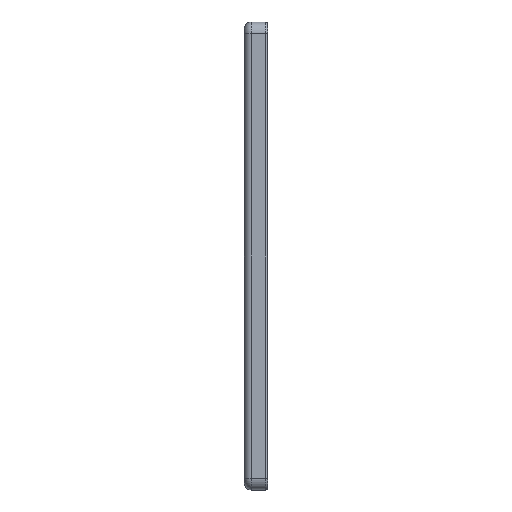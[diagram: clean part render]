
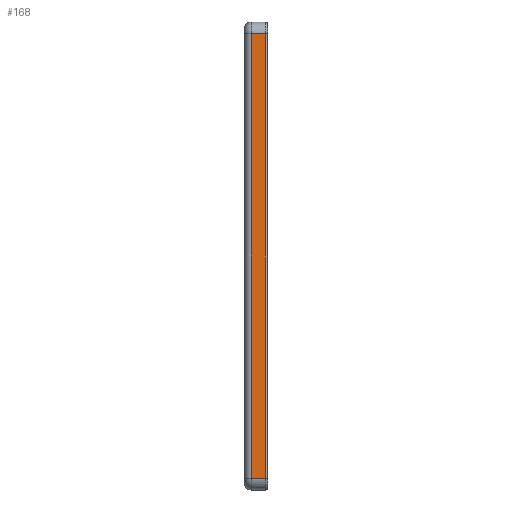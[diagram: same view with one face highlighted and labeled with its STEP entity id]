
A CAD part, left-side view. The second image highlights one B-rep face of the part: STEP entity #168.
In plain terms, the highlighted planar face has unit normal (-1, 0, 0).
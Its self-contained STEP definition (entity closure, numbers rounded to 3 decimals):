
#13 = EDGE_LOOP ( 'NONE', ( #1362, #1363, #1364, #1365 ) ) ;
#168 = ADVANCED_FACE ( 'NONE', ( #2204 ), #2179, .F. ) ;
#249 = EDGE_CURVE ( 'NONE', #937, #961, #2437, .T. ) ;
#269 = EDGE_CURVE ( 'NONE', #957, #956, #2469, .T. ) ;
#271 = EDGE_CURVE ( 'NONE', #956, #961, #2472, .T. ) ;
#272 = EDGE_CURVE ( 'NONE', #937, #957, #2473, .T. ) ;
#937 = VERTEX_POINT ( 'NONE', #3825 ) ;
#956 = VERTEX_POINT ( 'NONE', #3842 ) ;
#957 = VERTEX_POINT ( 'NONE', #3843 ) ;
#961 = VERTEX_POINT ( 'NONE', #3847 ) ;
#1362 = ORIENTED_EDGE ( 'NONE', *, *, #269, .T. ) ;
#1363 = ORIENTED_EDGE ( 'NONE', *, *, #271, .T. ) ;
#1364 = ORIENTED_EDGE ( 'NONE', *, *, #249, .F. ) ;
#1365 = ORIENTED_EDGE ( 'NONE', *, *, #272, .T. ) ;
#1834 = AXIS2_PLACEMENT_3D ( 'NONE', #2174, #2182, #2183 ) ;
#2174 = CARTESIAN_POINT ( 'NONE',  ( -150., 5., 95. ) ) ;
#2179 = PLANE ( 'NONE',  #1834 ) ;
#2182 = DIRECTION ( 'NONE',  ( 1., 0., 0. ) ) ;
#2183 = DIRECTION ( 'NONE',  ( 0., 0., -1. ) ) ;
#2204 = FACE_OUTER_BOUND ( 'NONE', #13, .T. ) ;
#2434 = VECTOR ( 'NONE', #2709, 1000. ) ;
#2437 = LINE ( 'NONE', #2710, #2434 ) ;
#2469 = LINE ( 'NONE', #2754, #2471 ) ;
#2471 = VECTOR ( 'NONE', #2747, 1000. ) ;
#2472 = LINE ( 'NONE', #2761, #2474 ) ;
#2473 = LINE ( 'NONE', #2765, #2476 ) ;
#2474 = VECTOR ( 'NONE', #2757, 1000. ) ;
#2476 = VECTOR ( 'NONE', #2766, 1000. ) ;
#2709 = DIRECTION ( 'NONE',  ( 0., -1., 0. ) ) ;
#2710 = CARTESIAN_POINT ( 'NONE',  ( -150., 5., 95. ) ) ;
#2747 = DIRECTION ( 'NONE',  ( 0., -1., 0. ) ) ;
#2754 = CARTESIAN_POINT ( 'NONE',  ( -150., 5., -95. ) ) ;
#2757 = DIRECTION ( 'NONE',  ( 0., 0., 1. ) ) ;
#2761 = CARTESIAN_POINT ( 'NONE',  ( -150., -4., 95. ) ) ;
#2765 = CARTESIAN_POINT ( 'NONE',  ( -150., 2., 95. ) ) ;
#2766 = DIRECTION ( 'NONE',  ( 0., 0., -1. ) ) ;
#3825 = CARTESIAN_POINT ( 'NONE',  ( -150., 2., 95. ) ) ;
#3842 = CARTESIAN_POINT ( 'NONE',  ( -150., -4., -95. ) ) ;
#3843 = CARTESIAN_POINT ( 'NONE',  ( -150., 2., -95. ) ) ;
#3847 = CARTESIAN_POINT ( 'NONE',  ( -150., -4., 95. ) ) ;
